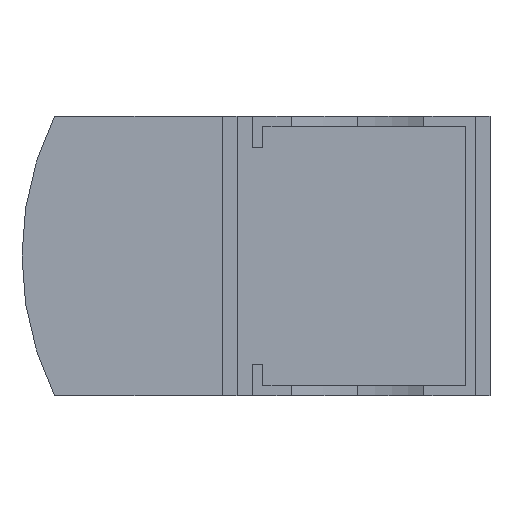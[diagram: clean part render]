
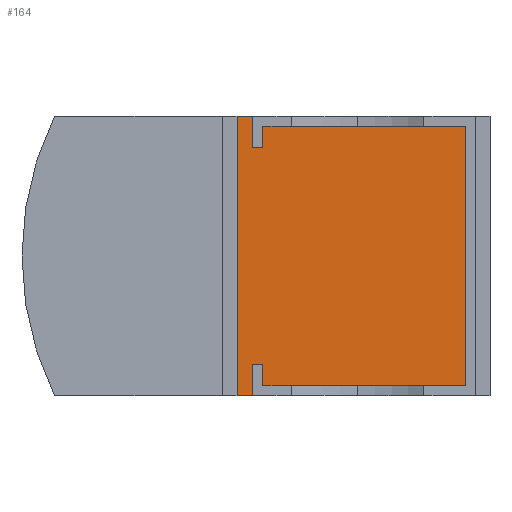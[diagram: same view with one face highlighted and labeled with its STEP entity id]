
A CAD part, left-side view. The second image highlights one B-rep face of the part: STEP entity #164.
In plain terms, the highlighted planar face has unit normal (-1, 0, 0).
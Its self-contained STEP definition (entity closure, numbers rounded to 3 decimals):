
#7 = DIRECTION ( 'NONE',  ( 1., 0., 0. ) ) ;
#50 = VECTOR ( 'NONE', #60, 1000. ) ;
#60 = DIRECTION ( 'NONE',  ( 0., 0., 1. ) ) ;
#87 = CARTESIAN_POINT ( 'NONE',  ( -18.8, -18.9, 22.1 ) ) ;
#105 = CARTESIAN_POINT ( 'NONE',  ( -18.8, -18.9, -109.403 ) ) ;
#164 = ADVANCED_FACE ( 'NONE', ( #993 ), #890, .F. ) ;
#180 = VERTEX_POINT ( 'NONE', #478 ) ;
#199 = VECTOR ( 'NONE', #850, 1000. ) ;
#205 = DIRECTION ( 'NONE',  ( 0., 1., 0. ) ) ;
#208 = AXIS2_PLACEMENT_3D ( 'NONE', #105, #7, #795 ) ;
#321 = VECTOR ( 'NONE', #1063, 1000. ) ;
#466 = ORIENTED_EDGE ( 'NONE', *, *, #1217, .F. ) ;
#478 = CARTESIAN_POINT ( 'NONE',  ( -18.8, 18.8, -22.1 ) ) ;
#546 = EDGE_LOOP ( 'NONE', ( #466, #797, #1035, #558 ) ) ;
#558 = ORIENTED_EDGE ( 'NONE', *, *, #918, .F. ) ;
#618 = LINE ( 'NONE', #1227, #199 ) ;
#627 = VERTEX_POINT ( 'NONE', #1180 ) ;
#628 = CARTESIAN_POINT ( 'NONE',  ( -18.8, 18.8, -109.403 ) ) ;
#687 = LINE ( 'NONE', #1178, #321 ) ;
#755 = LINE ( 'NONE', #628, #50 ) ;
#795 = DIRECTION ( 'NONE',  ( 0., 0., -1. ) ) ;
#797 = ORIENTED_EDGE ( 'NONE', *, *, #1056, .T. ) ;
#850 = DIRECTION ( 'NONE',  ( 0., 1., 0. ) ) ;
#890 = PLANE ( 'NONE',  #208 ) ;
#894 = VERTEX_POINT ( 'NONE', #934 ) ;
#918 = EDGE_CURVE ( 'NONE', #180, #627, #755, .T. ) ;
#934 = CARTESIAN_POINT ( 'NONE',  ( -18.8, -17.3, 22.1 ) ) ;
#967 = LINE ( 'NONE', #87, #1038 ) ;
#993 = FACE_OUTER_BOUND ( 'NONE', #546, .T. ) ;
#1035 = ORIENTED_EDGE ( 'NONE', *, *, #1073, .T. ) ;
#1038 = VECTOR ( 'NONE', #205, 1000. ) ;
#1042 = VERTEX_POINT ( 'NONE', #1084 ) ;
#1056 = EDGE_CURVE ( 'NONE', #1042, #894, #687, .T. ) ;
#1063 = DIRECTION ( 'NONE',  ( 0., 0., 1. ) ) ;
#1073 = EDGE_CURVE ( 'NONE', #894, #627, #967, .T. ) ;
#1084 = CARTESIAN_POINT ( 'NONE',  ( -18.8, -17.3, -22.1 ) ) ;
#1178 = CARTESIAN_POINT ( 'NONE',  ( -18.8, -17.3, 22.1 ) ) ;
#1180 = CARTESIAN_POINT ( 'NONE',  ( -18.8, 18.8, 22.1 ) ) ;
#1217 = EDGE_CURVE ( 'NONE', #1042, #180, #618, .T. ) ;
#1227 = CARTESIAN_POINT ( 'NONE',  ( -18.8, -18.9, -22.1 ) ) ;
